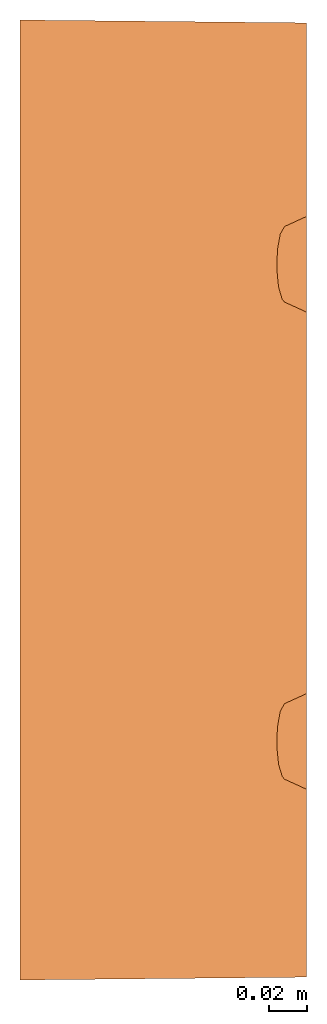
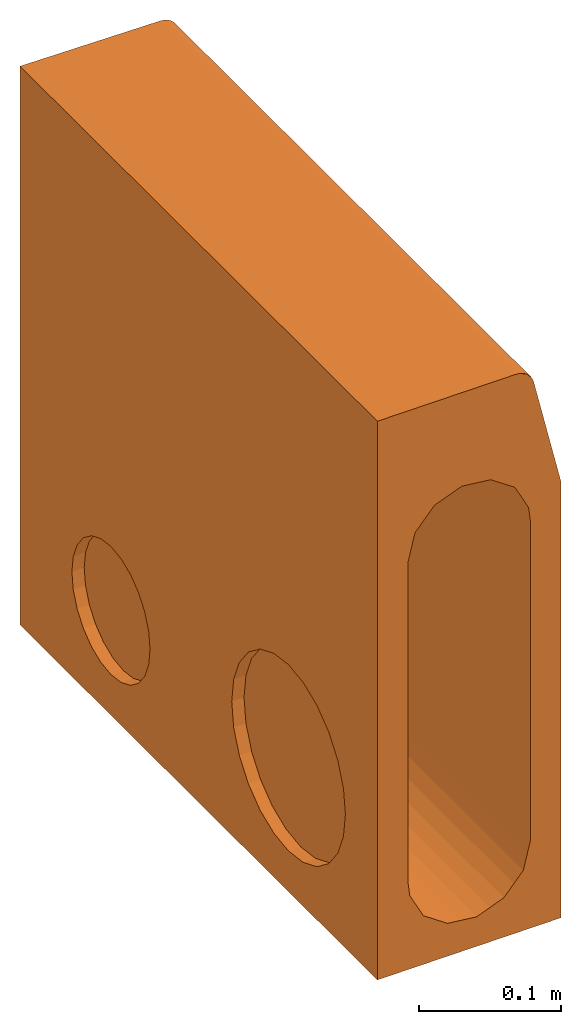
# One storey: 1 proxy.
"""IFC2X3 building model written with IfcOpenShell, lengths in millimetres."""

from ifc_helpers import new_model, entity, si_unit, converted_unit, direction, frame, origin, place, context, subcontext, project, spatial, face_set, surface_model, source, transform, mapped, material, element, save


model = new_model("IFC2X3")

# Units and contexts
model_context = context("Model", 3, precision=1e-06, world=origin(), true_north=direction((2.0, 6.12303176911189e-17, 1.0)))
context_of_model = context(None, 3, precision=1e-06, world=origin(), true_north=direction((2.0, 6.12303176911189e-17, 1.0)))
body_context = subcontext(model_context, "Body", "Model", "MODEL_VIEW")
ifc_project = project(units=[si_unit("LENGTHUNIT", "METRE", prefix="MILLI"), si_unit("AREAUNIT", "SQUARE_METRE", prefix="MILLI"), si_unit("VOLUMEUNIT", "CUBIC_METRE", prefix="MILLI"), converted_unit("PLANEANGLEUNIT", "DEGREE", entity("IfcRatioMeasure", 0.0174532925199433), si_unit("PLANEANGLEUNIT", "RADIAN"), dimensions=[0, 0, 0, 0, 0, 0, 0]), si_unit("TIMEUNIT", "SECOND")], contexts=[model_context, context_of_model])

# Site, building, storey
site_placement = place(None, origin())
site = spatial("IfcSite", under=ifc_project, at=site_placement, Name="Default", CompositionType="ELEMENT")
building_placement = place(site_placement, origin())
building = spatial("IfcBuilding", under=site, at=building_placement, CompositionType="ELEMENT")
storey_placement = place(building_placement, frame((0.0, 0.0, -300.0)))
storey = spatial("IfcBuildingStorey", under=building, at=storey_placement, Name="T.O. Fnd. Wall", CompositionType="ELEMENT", Elevation=-300.0)

# Proxy
ifc_material = material(Name="ACO Polymer Concrete.")
shared_shape = source(origin(), body_context, "Body", "SurfaceModel", [
    surface_model("IfcFaceBasedSurfaceModel", [(-76.0, 0.0, 125.0), (-76.0, 503.0, 125.0), (-76.0, 503.0, -355.0), (-76.0, 0.0, -355.0), (-76.0, 125.024425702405, -160.0), (-76.0, 145.729949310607, -162.725933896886), (-76.0, 165.024425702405, -170.717967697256), (-76.0, 181.592968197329, -183.431457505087), (-76.0, 194.306458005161, -200.0), (-76.0, 202.298491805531, -219.294476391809), (-76.0, 205.024425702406, -240.0), (-76.0, 202.298491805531, -260.705523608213), (-76.0, 194.306458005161, -280.0), (-76.0, 181.59296819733, -296.568542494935), (-76.0, 165.024425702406, -309.282032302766), (-76.0, 145.729949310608, -317.274066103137), (-76.0, 125.024425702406, -320.0), (-76.0, 104.318902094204, -317.274066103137), (-76.0, 85.0244257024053, -309.282032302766), (-76.0, 68.4558832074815, -296.568542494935), (-76.0, 55.7423933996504, -280.0), (-76.0, 47.7503595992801, -260.705523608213), (-76.0, 45.0244257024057, -240.0), (-76.0, 47.7503595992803, -219.294476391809), (-76.0, 55.7423933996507, -200.0), (-76.0, 68.4558832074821, -183.431457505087), (-76.0, 85.0244257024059, -170.717967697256), (-76.0, 104.318902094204, -162.725933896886), (-76.0, 374.975574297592, -210.0), (-76.0, 389.210621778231, -211.874079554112), (-76.0, 402.475574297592, -217.368602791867), (-76.0, 413.866447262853, -226.109127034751), (-76.0, 422.606971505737, -237.500000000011), (-76.0, 428.101494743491, -250.764952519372), (-76.0, 429.975574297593, -265.0), (-76.0, 428.101494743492, -279.23504748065), (-76.0, 422.606971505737, -292.500000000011), (-76.0, 413.866447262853, -303.890872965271), (-76.0, 402.475574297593, -312.631397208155), (-76.0, 389.210621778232, -318.12592044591), (-76.0, 374.975574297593, -320.0), (-76.0, 360.740526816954, -318.12592044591), (-76.0, 347.475574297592, -312.631397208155), (-76.0, 336.084701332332, -303.890872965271), (-76.0, 327.344177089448, -292.500000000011), (-76.0, 321.849653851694, -279.23504748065), (-76.0, 319.975574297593, -265.0), (-76.0, 321.849653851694, -250.764952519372), (-76.0, 327.344177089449, -237.500000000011), (-76.0, 336.084701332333, -226.109127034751), (-76.0, 347.475574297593, -217.368602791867), (-76.0, 360.740526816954, -211.874079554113), (74.0, 501.5, -355.0), (74.0, 1.50000000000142, -355.0), (74.0, 350.0, 20.0), (74.0, 150.0, 20.0), (74.0, 149.148145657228, 13.5295238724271), (74.0, 146.650635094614, 7.49999999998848), (74.0, 142.677669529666, 2.32233047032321), (74.0, 137.500000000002, -1.65063509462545), (74.0, 131.470476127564, -4.14814565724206), (74.0, 125.0, -5.0), (74.0, 118.529523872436, -4.14814565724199), (74.0, 112.499999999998, -1.65063509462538), (74.0, 107.322330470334, 2.32233047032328), (74.0, 103.349364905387, 7.49999999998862), (74.0, 100.851854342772, 13.5295238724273), (74.0, 100.0, 20.0), (74.0, 1.50000000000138, 20.0), (74.0, 501.5, 20.0), (74.0, 400.0, 20.0), (74.0, 399.148145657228, 13.5295238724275), (74.0, 396.650635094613, 7.49999999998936), (74.0, 392.677669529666, 2.3223304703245), (74.0, 387.500000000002, -1.65063509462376), (74.0, 381.470476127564, -4.14814565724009), (74.0, 375.0, -5.0), (74.0, 368.529523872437, -4.14814565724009), (74.0, 362.499999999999, -1.65063509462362), (74.0, 357.322330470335, 2.32233047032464), (74.0, 353.349364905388, 7.4999999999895), (74.0, 350.851854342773, 13.5295238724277), (74.0, 125.024425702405, -160.0), (74.0, 104.318902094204, -162.725933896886), (74.0, 85.0244257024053, -170.717967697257), (74.0, 68.4558832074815, -183.431457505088), (74.0, 55.7423933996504, -200.0), (74.0, 47.7503595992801, -219.29447639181), (74.0, 45.0244257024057, -240.0), (74.0, 47.7503595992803, -260.705523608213), (74.0, 55.7423933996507, -280.0), (74.0, 68.4558832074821, -296.568542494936), (74.0, 85.0244257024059, -309.282032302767), (74.0, 104.318902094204, -317.274066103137), (74.0, 125.024425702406, -320.0), (74.0, 145.729949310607, -317.274066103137), (74.0, 165.024425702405, -309.282032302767), (74.0, 181.592968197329, -296.568542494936), (74.0, 194.306458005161, -280.0), (74.0, 202.298491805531, -260.705523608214), (74.0, 205.024425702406, -240.0), (74.0, 202.298491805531, -219.29447639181), (74.0, 194.306458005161, -200.0), (74.0, 181.59296819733, -183.431457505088), (74.0, 165.024425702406, -170.717967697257), (74.0, 145.729949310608, -162.725933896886), (74.0, 374.975574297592, -210.0), (74.0, 360.740526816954, -211.874079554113), (74.0, 347.475574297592, -217.368602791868), (74.0, 336.084701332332, -226.109127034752), (74.0, 327.344177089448, -237.500000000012), (74.0, 321.849653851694, -250.764952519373), (74.0, 319.975574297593, -265.0), (74.0, 321.849653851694, -279.23504748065), (74.0, 327.344177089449, -292.500000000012), (74.0, 336.084701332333, -303.890872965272), (74.0, 347.475574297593, -312.631397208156), (74.0, 360.740526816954, -318.12592044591), (74.0, 374.975574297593, -320.0), (74.0, 389.210621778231, -318.12592044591), (74.0, 402.475574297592, -312.631397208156), (74.0, 413.866447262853, -303.890872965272), (74.0, 422.606971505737, -292.500000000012), (74.0, 428.101494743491, -279.23504748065), (74.0, 429.975574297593, -265.0), (74.0, 428.101494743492, -250.764952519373), (74.0, 422.606971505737, -237.500000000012), (74.0, 413.866447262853, -226.109127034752), (74.0, 402.475574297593, -217.368602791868), (74.0, 389.210621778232, -211.874079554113), (62.5348783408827, 355.250180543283, 68.1535109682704), (61.358168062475, 356.711759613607, 73.0956941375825), (59.4583730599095, 363.100431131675, 81.0748331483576), (58.5582966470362, 372.597323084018, 84.8551540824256), (58.893042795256, 382.721804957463, 83.4492202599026), (60.3751743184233, 390.829316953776, 77.2242678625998), (62.6175518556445, 394.802140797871, 67.8062822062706), (51.7442124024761, 501.722557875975, 113.474307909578), (51.7442124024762, 1.2774421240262, 113.474307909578), (62.6175518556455, 105.197859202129, 67.8062822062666), (61.4349132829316, 106.572444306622, 72.7733642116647), (59.508705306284, 112.820043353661, 80.863437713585), (58.5690689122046, 122.249101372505, 84.8099105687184), (58.8614413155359, 132.3967063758, 83.5819464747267), (60.3094535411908, 140.612258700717, 77.5002951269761), (62.5348783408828, 144.749819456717, 68.1535109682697), (37.1521191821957, 1.13152119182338, 125.0), (37.1521191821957, 501.868478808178, 125.0), (-49.5470892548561, 502.735483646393, 6.96578348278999), (-50.9999983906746, 502.750017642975, -5.00000026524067), (-50.9999983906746, 0.249999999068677, -5.00000026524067), (-49.5470892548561, 0.264529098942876, 6.96578348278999), (-45.2727998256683, 502.69271736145, 18.2361586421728), (-45.2727998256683, 0.307272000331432, 18.2361586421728), (27.4032374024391, 501.965981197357, 36.1491924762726), (24.4317845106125, 398.037550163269, 38.0490924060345), (29.4817351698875, 398.465467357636, 34.1136017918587), (-38.4255388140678, 502.624262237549, 28.1561324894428), (-38.4255388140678, 0.375744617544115, 28.1561324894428), (-18.7302441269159, 502.427290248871, 41.7508127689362), (-29.4032379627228, 502.534042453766, 36.1491924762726), (-29.4032379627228, 0.465967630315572, 36.1491924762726), (-18.7302441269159, 0.572697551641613, 41.7508127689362), (0.0, 102.717104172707, 44.9900000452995), (-7.02683421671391, 0.689731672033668, 44.6354431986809), (-0.99999999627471, 0.749999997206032, 44.6354431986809), (0.0, 352.72465467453, 44.9900000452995), (0.0, 147.275340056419, 44.9900000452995), (5.02683422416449, 0.810268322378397, 44.6354431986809), (2.11451071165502, 102.68273127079, 44.6738810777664), (4.22902142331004, 102.648358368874, 44.3577621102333), (-7.02683421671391, 502.310255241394, 44.6354431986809), (44.8762760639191, 100.52910182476, 14.883846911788), (43.2727992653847, 1.19272802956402, 18.2361586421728), (45.4099462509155, 1.21409939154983, 12.6009704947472), (22.0667399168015, 502.019320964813, 38.9500026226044), (10.8785397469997, 0.868785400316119, 43.1931257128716), (16.7302447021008, 0.927302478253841, 41.7508127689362), (12.6639617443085, 102.511248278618, 43.0967380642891), (34.5316858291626, 101.106637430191, 30.1781089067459), (29.4817351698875, 101.534536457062, 34.1136017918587), (31.9143878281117, 1.07914385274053, 32.1526636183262), (48.9314427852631, 113.863562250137, -2.38257565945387), (48.9999978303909, 63.2748032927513, -5.00000026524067), (48.9956012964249, 119.279556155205, -4.33673224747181), (22.0667399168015, 0.980667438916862, 38.9500026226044), (27.4032374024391, 1.03403239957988, 36.1491924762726), (24.4317845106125, 101.962435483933, 38.0490924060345), (18.5478731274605, 102.236846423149, 40.5729140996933), (3.16599043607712, 147.326944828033, 44.51668227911), (6.33198087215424, 147.378549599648, 44.0433690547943), (6.33198087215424, 352.621463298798, 44.0433690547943), (3.16599043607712, 352.673058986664, 44.51668227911), (36.4255382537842, 1.12425537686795, 28.1561324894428), (38.4164777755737, 100.553319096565, 25.0890549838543), (12.6639617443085, 147.481759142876, 43.0967380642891), (18.5478731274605, 147.756933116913, 40.5729140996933), (18.5478731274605, 352.243070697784, 40.5729140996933), (12.6639617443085, 352.518235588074, 43.0967380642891), (39.8491710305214, 1.1584916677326, 23.1961449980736), (0.0, 397.282908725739, 44.9900000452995), (-0.99999999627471, 502.250011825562, 44.6354431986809), (42.3012697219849, 400.000003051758, 20.0000010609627), (43.2727992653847, 501.807269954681, 18.2361586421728), (39.8491710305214, 501.841497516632, 23.1961449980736), (2.11451071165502, 397.317281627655, 44.6738810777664), (48.9314427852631, 386.136423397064, -2.38257565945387), (48.2735432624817, 501.757273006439, 0.982891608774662), (48.6677007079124, 390.957059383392, 0.75494049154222), (46.7841310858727, 397.78861913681, 9.71994177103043), (45.4099462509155, 501.785904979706, 12.6009704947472), (44.8762760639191, 399.470892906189, 14.883846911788), (8.45804284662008, 397.420400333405, 43.7255241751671), (10.5610025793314, 397.454555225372, 43.4111311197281), (10.8785397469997, 502.131232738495, 43.1931257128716), (34.5316858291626, 351.109709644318, 30.1781089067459), (29.4817351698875, 351.538789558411, 34.1136017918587), (29.4817351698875, 148.461196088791, 34.1136017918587), (34.5316858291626, 148.890276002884, 30.1781089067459), (24.4317845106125, 148.03210709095, 38.0490924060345), (24.4317845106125, 351.967905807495, 38.0490924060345), (38.4164777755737, 149.445138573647, 25.0890549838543), (38.4164777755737, 350.554874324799, 25.0890549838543), (9.49797130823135, 352.56983127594, 43.5700512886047), (9.49797130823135, 147.430154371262, 43.5700512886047), (42.3012697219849, 100.000000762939, 20.0000010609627), (5.02683422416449, 502.189732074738, 44.6354431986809), (31.9143878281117, 501.92085313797, 32.1526636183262), (34.5316858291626, 398.893348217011, 30.1781089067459), (16.7302447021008, 502.072697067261, 41.7508127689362), (18.5478731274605, 397.7631483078, 40.5729140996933), (48.0129623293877, 105.086145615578, 4.8858164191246), (48.2735432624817, 1.24273548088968, 0.982891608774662), (48.6677007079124, 109.042944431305, 0.75494049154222), (36.4255382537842, 501.875761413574, 28.1561324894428), (46.7841310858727, 102.211393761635, 9.71994177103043), (47.5470886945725, 1.23547089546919, 6.96578348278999), (44.8762760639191, 350.529112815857, 14.883846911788), (42.3012697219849, 350.000002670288, 20.0000010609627), (42.3012697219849, 150.000001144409, 20.0000010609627), (44.8762760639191, 149.470900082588, 14.883846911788), (46.7841310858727, 352.211386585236, 9.71994177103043), (46.7841310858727, 147.788599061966, 9.71994177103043), (48.9999978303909, 125.000000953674, -5.00000026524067), (48.9999978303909, 1.25000006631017, -5.00000026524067), (48.6677007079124, 359.042946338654, 0.75494049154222), (48.0129623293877, 355.086138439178, 4.8858164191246), (48.0129623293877, 144.913847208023, 4.8858164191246), (48.6677007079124, 140.957057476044, 0.75494049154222), (48.9999978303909, 251.549598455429, -5.00000026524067), (48.9314427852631, 136.136439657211, -2.38257565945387), (48.9999978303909, 186.725194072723, -5.00000026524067), (48.9956012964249, 130.720445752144, -4.33673224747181), (12.6639617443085, 397.488746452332, 43.0967380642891), (47.5470886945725, 501.76454000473, 6.96578348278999), (48.0129623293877, 394.913867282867, 4.8858164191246), (38.4164777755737, 399.44669380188, 25.0890549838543), (8.45804284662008, 102.579621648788, 43.7255241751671), (48.9999978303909, 313.274809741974, -5.00000026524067), (48.9314427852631, 363.86354598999, -2.38257565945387), (48.9999978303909, 375.000002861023, -5.00000026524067), (48.9956012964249, 369.279567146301, -4.33673224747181), (48.9956012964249, 380.720438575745, -4.33673224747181), (48.9999978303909, 436.725195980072, -5.00000026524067), (48.9999978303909, 501.750006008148, -5.00000026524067), (10.5610025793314, 102.545430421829, 43.4111311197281), (4.22902142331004, 397.351654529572, 44.3577621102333), (6.3435319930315, 397.386027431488, 44.0416431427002), (6.3435319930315, 102.613985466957, 44.0416431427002), (49.0, 1.25000000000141, -280.0), (49.0, 501.75, -280.0), (43.2727992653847, 501.807269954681, -303.236160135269), (47.5470886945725, 501.76454000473, -291.965790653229), (47.5470886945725, 1.23547089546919, -291.965790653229), (43.2727992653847, 1.19272802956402, -303.236160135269), (5.02683422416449, 502.189732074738, -329.635439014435), (16.7302447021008, 502.072697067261, -326.750804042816), (16.7302447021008, 0.927302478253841, -326.750804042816), (5.02683422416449, 0.810268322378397, -329.635439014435), (27.4032374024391, 501.965981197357, -321.149183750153), (36.4255382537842, 501.875761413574, -313.156139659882), (36.4255382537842, 1.12425537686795, -313.156139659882), (27.4032374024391, 1.03403239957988, -321.149183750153), (-7.02683421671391, 502.310255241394, -329.635439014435), (-7.02683421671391, 0.689731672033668, -329.635439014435), (-18.7302441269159, 502.427290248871, -326.750804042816), (-18.7302441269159, 0.572697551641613, -326.750804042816), (-29.4032379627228, 502.534042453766, -321.149183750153), (-29.4032379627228, 0.465967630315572, -321.149183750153), (-49.5470892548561, 502.735483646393, -291.965790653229), (-45.2727998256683, 502.69271736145, -303.236160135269), (-45.2727998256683, 0.307272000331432, -303.236160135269), (-49.5470892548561, 0.264529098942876, -291.965790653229), (-38.4255388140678, 502.624262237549, -313.156139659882), (-38.4255388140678, 0.375744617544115, -313.156139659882), (-50.9999983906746, 502.750017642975, -280.00000576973), (-50.9999983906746, 0.249999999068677, -280.00000576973), (48.8211070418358, 1.24821113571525, 119.4252140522), (48.8211070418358, 501.75178642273, 119.4252140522), (46.44957665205, 501.77551317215, 121.771037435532), (46.44957665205, 1.22449574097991, 121.771037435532), (50.615565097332, 1.26615565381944, 116.613285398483), (50.615565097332, 501.733836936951, 116.613285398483), (40.4671565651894, 1.16467152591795, 124.629102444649), (40.4671565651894, 501.835320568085, 124.629102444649), (43.6182496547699, 1.1961825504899, 123.534737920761), (43.6182496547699, 501.803818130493, 123.534737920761), (0.0, 109.170680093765, 77.2242652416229), (0.0, 106.572446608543, 72.7733650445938), (60.3751755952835, 109.170680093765, 77.2242652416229), (0.0, 105.197857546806, 67.806280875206), (0.0, 122.249096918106, 84.8099123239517), (0.0, 117.278197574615, 83.4492213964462), (58.8930440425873, 117.278197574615, 83.4492213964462), (0.0, 112.820039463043, 80.8634417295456), (0.0, 127.402679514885, 84.8551584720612), (58.5582988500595, 127.402679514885, 84.8551584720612), (0.0, 132.396706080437, 83.5819440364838), (59.458371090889, 136.899565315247, 81.0748296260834), (0.0, 136.899565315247, 81.0748296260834), (0.0, 144.749821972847, 68.1535116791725), (61.3581688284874, 143.288237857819, 73.0956927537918), (0.0, 143.288237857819, 73.0956927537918), (0.0, 140.612256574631, 77.5002930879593), (0.0, 359.387729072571, 77.5002930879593), (0.0, 356.711765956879, 73.0956927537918), (60.3094546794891, 359.387729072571, 77.5002930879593), (0.0, 355.250190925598, 68.1535116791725), (0.0, 372.597315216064, 84.8551584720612), (0.0, 367.603288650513, 83.5819440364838), (58.8614416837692, 367.603288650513, 83.5819440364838), (0.0, 363.100438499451, 81.0748296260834), (58.569067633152, 377.750888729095, 84.8099123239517), (0.0, 377.750888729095, 84.8099123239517), (0.0, 382.721806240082, 83.4492213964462), (59.5087041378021, 387.179964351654, 80.8634417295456), (0.0, 387.179964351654, 80.8634417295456), (0.0, 393.427548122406, 72.7733650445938), (61.4349128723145, 393.427548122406, 72.7733650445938), (0.0, 394.802137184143, 67.806280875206), (0.0, 390.829305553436, 77.2242652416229), (-66.0, 125.024425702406, -320.0), (-66.0, 104.318902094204, -317.274066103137), (-66.0, 85.0244257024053, -309.282032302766), (-66.0, 68.4558832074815, -296.568542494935), (-66.0, 55.7423933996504, -280.0), (-66.0, 47.7503595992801, -260.705523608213), (-66.0, 45.0244257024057, -240.0), (-66.0, 47.7503595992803, -219.294476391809), (-66.0, 55.7423933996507, -200.0), (-66.0, 68.4558832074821, -183.431457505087), (-66.0, 85.0244257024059, -170.717967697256), (-66.0, 104.318902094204, -162.725933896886), (-66.0, 125.024425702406, -160.0), (-66.0, 145.729949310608, -162.725933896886), (-66.0, 165.024425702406, -170.717967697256), (-66.0, 181.59296819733, -183.431457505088), (-66.0, 194.306458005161, -200.0), (-66.0, 202.298491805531, -219.29447639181), (-66.0, 205.024425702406, -240.0), (-66.0, 202.298491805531, -260.705523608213), (-66.0, 194.306458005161, -280.0), (-66.0, 181.592968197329, -296.568542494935), (-66.0, 165.024425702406, -309.282032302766), (-66.0, 145.729949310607, -317.274066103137), (-66.0000003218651, 374.975585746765, -320.000016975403), (-66.0000003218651, 389.210618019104, -318.125930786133), (-66.0000003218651, 402.475578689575, -312.631389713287), (-66.0000003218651, 413.866453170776, -303.890880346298), (-66.0000003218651, 422.606980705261, -292.500005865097), (-66.0000003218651, 428.101485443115, -279.235045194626), (-66.0000003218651, 429.975571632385, -264.999994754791), (-66.0000003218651, 428.101485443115, -250.764944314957), (-66.0000003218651, 422.606980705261, -237.500001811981), (-66.0000003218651, 413.866453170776, -226.10912733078), (-66.0000003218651, 402.475578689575, -217.368599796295), (-66.0000003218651, 389.210618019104, -211.874076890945), (-66.0000003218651, 374.975585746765, -210.000008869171), (-66.0000003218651, 360.740517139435, -211.874076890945), (-66.0000003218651, 347.475556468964, -217.368599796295), (-66.0000003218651, 327.344190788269, -237.500001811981), (-66.0000003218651, 336.084718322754, -226.10912733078), (-66.0000003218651, 321.849649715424, -250.764944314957), (-66.0000003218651, 319.975563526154, -264.999994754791), (-66.0000003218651, 321.849649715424, -279.235045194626), (-66.0000003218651, 327.344190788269, -292.500005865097), (-66.0000003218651, 336.084718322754, -303.890880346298), (-66.0000003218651, 347.475556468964, -312.631389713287), (-66.0000003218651, 360.740517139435, -318.125930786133), (64.0, 125.024425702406, -160.0), (64.0, 104.318902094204, -162.725933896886), (64.0, 85.0244257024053, -170.717967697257), (64.0, 68.4558832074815, -183.431457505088), (64.0, 55.7423933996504, -200.0), (64.0, 47.7503595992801, -219.29447639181), (64.0, 45.0244257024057, -240.0), (64.0, 47.7503595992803, -260.705523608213), (64.0, 55.7423933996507, -280.0), (64.0, 68.4558832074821, -296.568542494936), (64.0, 85.0244257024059, -309.282032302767), (64.0, 104.318902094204, -317.274066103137), (64.0, 125.024425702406, -320.0), (64.0, 145.729949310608, -317.274066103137), (64.0, 165.024425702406, -309.282032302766), (64.0, 181.59296819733, -296.568542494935), (64.0, 194.306458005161, -280.0), (64.0, 202.298491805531, -260.705523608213), (64.0, 205.024425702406, -240.0), (64.0, 202.298491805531, -219.29447639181), (64.0, 194.306458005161, -200.0), (64.0, 181.592968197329, -183.431457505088), (64.0, 165.024425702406, -170.717967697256), (64.0, 145.729949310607, -162.725933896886), (63.9999997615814, 374.975585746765, -320.000016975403), (63.9999997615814, 360.740517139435, -318.125930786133), (63.9999997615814, 347.475556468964, -312.631389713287), (63.9999997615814, 336.084718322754, -303.890880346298), (63.9999997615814, 327.344190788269, -292.500005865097), (63.9999997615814, 321.849649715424, -279.235045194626), (63.9999997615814, 319.975563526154, -264.999994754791), (63.9999997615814, 321.849649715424, -250.764944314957), (63.9999997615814, 327.344190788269, -237.500001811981), (63.9999997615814, 347.475556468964, -217.368599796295), (63.9999997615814, 336.084718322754, -226.10912733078), (63.9999997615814, 360.740517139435, -211.874076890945), (63.9999997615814, 374.975585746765, -210.000008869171), (63.9999997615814, 389.210618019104, -211.874076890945), (63.9999997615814, 402.475578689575, -217.368599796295), (63.9999997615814, 413.866453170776, -226.10912733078), (63.9999997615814, 422.606980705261, -237.500001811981), (63.9999997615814, 428.101485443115, -250.764944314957), (63.9999997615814, 429.975571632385, -264.999994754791), (63.9999997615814, 428.101485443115, -279.235045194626), (63.9999997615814, 422.606980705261, -292.500005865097), (63.9999997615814, 413.866453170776, -303.890880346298), (63.9999997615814, 402.475578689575, -312.631389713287), (63.9999997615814, 389.210618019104, -318.125930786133)], [face_set([[[0, 1, 2, 3], [4, 5, 6, 7, 8, 9, 10, 11, 12, 13, 14, 15, 16, 17, 18, 19, 20, 21, 22, 23, 24, 25, 26, 27], [28, 29, 30, 31, 32, 33, 34, 35, 36, 37, 38, 39, 40, 41, 42, 43, 44, 45, 46, 47, 48, 49, 50, 51]], [[3, 2, 52, 53]], [[54, 55, 56, 57, 58, 59, 60, 61, 62, 63, 64, 65, 66, 67, 68, 53, 52, 69, 70, 71, 72, 73, 74, 75, 76, 77, 78, 79, 80, 81], [82, 83, 84, 85, 86, 87, 88, 89, 90, 91, 92, 93, 94, 95, 96, 97, 98, 99, 100, 101, 102, 103, 104, 105], [106, 107, 108, 109, 110, 111, 112, 113, 114, 115, 116, 117, 118, 119, 120, 121, 122, 123, 124, 125, 126, 127, 128, 129]], [[55, 54, 130, 131, 132, 133, 134, 135, 136, 70, 69, 137, 138, 68, 67, 139, 140, 141, 142, 143, 144, 145]], [[1, 0, 146, 147]], [[148, 149, 150, 151]], [[152, 148, 151, 153]], [[154, 155, 156]], [[157, 152, 153, 158]], [[159, 160, 161, 162]], [[163, 164, 165]], [[166, 164, 163, 167]], [[165, 168, 169]], [[168, 170, 169]], [[171, 159, 162, 164]], [[172, 173, 174]], [[160, 157, 158, 161]], [[155, 154, 175]], [[176, 177, 178]], [[179, 180, 181]], [[182, 183, 184]], [[185, 186, 187]], [[188, 178, 177]], [[187, 186, 180]], [[189, 190, 191, 192]], [[179, 193, 194]], [[180, 186, 181]], [[195, 196, 197, 198]], [[194, 193, 199]], [[164, 166, 200, 171]], [[171, 200, 201]], [[202, 203, 204]], [[205, 201, 200]], [[206, 207, 208]], [[209, 210, 211]], [[188, 185, 187]], [[212, 213, 214]], [[215, 216, 217, 218]], [[196, 219, 220, 197]], [[218, 221, 222, 215]], [[198, 223, 224, 195]], [[225, 199, 173]], [[212, 214, 226]], [[227, 156, 228]], [[156, 227, 154]], [[175, 229, 230]], [[230, 155, 175]], [[231, 232, 233]], [[216, 220, 219, 217]], [[179, 181, 193]], [[228, 234, 227]], [[225, 173, 172]], [[174, 235, 172]], [[235, 174, 236]], [[237, 238, 239, 240]], [[231, 235, 236]], [[241, 237, 240, 242]], [[232, 231, 236]], [[221, 239, 238, 222]], [[233, 232, 182]], [[184, 183, 243]], [[183, 182, 244]], [[245, 246, 247, 248]], [[249, 250, 251]], [[251, 250, 252]], [[250, 249, 248]], [[253, 229, 214]], [[232, 244, 182]], [[246, 241, 242, 247]], [[254, 209, 255]], [[256, 234, 228]], [[202, 204, 256]], [[203, 211, 210]], [[211, 203, 202]], [[210, 209, 254]], [[176, 257, 168]], [[258, 259, 249]], [[249, 259, 245]], [[260, 261, 258]], [[249, 245, 248]], [[207, 254, 255]], [[262, 263, 206]], [[206, 263, 264]], [[264, 207, 206]], [[207, 255, 208]], [[265, 176, 178]], [[185, 188, 177]], [[199, 225, 194]], [[234, 256, 204]], [[262, 260, 263]], [[229, 253, 230]], [[226, 266, 267]], [[259, 258, 261]], [[252, 243, 251]], [[168, 257, 268]], [[201, 205, 226]], [[167, 189, 192, 166]], [[223, 191, 190, 224]], [[212, 226, 267]], [[257, 176, 265]], [[253, 214, 213]], [[165, 169, 163]], [[266, 226, 205]], [[170, 168, 268]], [[243, 244, 269, 270, 264, 260]], [[271, 272, 273, 274]], [[272, 270, 269, 273]], [[275, 276, 277, 278]], [[279, 280, 281, 282]], [[276, 279, 282, 277]], [[280, 271, 274, 281]], [[283, 275, 278, 284]], [[285, 283, 284, 286]], [[287, 285, 286, 288]], [[289, 290, 291, 292]], [[290, 293, 294, 291]], [[293, 287, 288, 294]], [[295, 289, 292, 296]], [[149, 295, 296, 150]], [[297, 298, 299, 300]], [[301, 302, 298, 297]], [[138, 137, 302, 301]], [[303, 304, 147, 146]], [[305, 306, 304, 303]], [[306, 305, 300, 299]], [[307, 308, 140, 309]], [[308, 310, 139, 140]], [[311, 312, 313, 142]], [[312, 314, 141, 313]], [[314, 307, 309, 141]], [[315, 311, 142, 316]], [[317, 143, 318, 319]], [[315, 316, 143, 317]], [[320, 145, 321, 322]], [[323, 144, 321, 322]], [[319, 318, 144, 323]], [[55, 240, 56]], [[56, 242, 57]], [[59, 58, 248]], [[252, 61, 60]], [[247, 58, 57]], [[60, 59, 250]], [[55, 239, 240]], [[56, 240, 242]], [[60, 250, 252]], [[58, 247, 248]], [[59, 248, 250]], [[247, 57, 242]], [[252, 243, 61]], [[184, 61, 243]], [[62, 61, 184]], [[62, 182, 63]], [[65, 66, 235]], [[231, 64, 65]], [[64, 63, 233]], [[172, 66, 67]], [[62, 184, 182]], [[63, 182, 233]], [[235, 231, 65]], [[225, 172, 67]], [[235, 66, 172]], [[233, 64, 231]], [[71, 211, 70]], [[72, 209, 71]], [[74, 73, 208]], [[262, 76, 75]], [[72, 73, 255]], [[75, 74, 206]], [[211, 202, 70]], [[209, 211, 71]], [[75, 206, 262]], [[208, 255, 73]], [[74, 208, 206]], [[209, 72, 255]], [[262, 260, 76]], [[261, 76, 260]], [[77, 76, 261]], [[77, 259, 78]], [[241, 81, 80]], [[80, 79, 246]], [[79, 78, 245]], [[54, 81, 237]], [[77, 261, 259]], [[78, 259, 245]], [[80, 246, 241]], [[54, 237, 238]], [[237, 81, 241]], [[246, 79, 245]], [[324, 325, 131, 326]], [[131, 130, 327, 325]], [[328, 329, 330, 133]], [[329, 331, 132, 330]], [[331, 324, 326, 132]], [[332, 333, 328, 133]], [[334, 134, 335, 336]], [[333, 332, 134, 334]], [[337, 338, 136, 339]], [[340, 135, 338, 337]], [[336, 335, 135, 340]], [[320, 145, 55, 239, 218, 195, 167]], [[163, 310, 139, 67, 225, 179, 178]], [[339, 136, 70, 202, 228, 253, 200]], [[166, 327, 130, 54, 238, 215, 198]], [[341, 342, 343, 344, 345, 346, 347, 348, 349, 350, 351, 352, 353, 354, 355, 356, 357, 358, 359, 360, 361, 362, 363, 364]], [[341, 16, 15, 364]], [[364, 15, 14, 363]], [[362, 13, 12, 361]], [[363, 14, 13, 362]], [[361, 12, 11, 360]], [[11, 360, 359, 10]], [[358, 9, 10, 359]], [[357, 8, 9, 358]], [[355, 6, 7, 356]], [[356, 7, 8, 357]], [[354, 5, 6, 355]], [[354, 353, 4, 5]], [[352, 27, 4, 353]], [[352, 27, 26, 351]], [[350, 25, 24, 349]], [[351, 26, 25, 350]], [[349, 24, 23, 348]], [[22, 347, 348, 23]], [[347, 22, 21, 346]], [[346, 21, 20, 345]], [[344, 19, 18, 343]], [[345, 20, 19, 344]], [[343, 18, 17, 342]], [[16, 341, 342, 17]], [[365, 40, 39, 366]], [[366, 39, 38, 367]], [[368, 37, 36, 369]], [[367, 38, 37, 368]], [[369, 36, 35, 370]], [[34, 371, 370, 35]], [[371, 34, 33, 372]], [[372, 33, 32, 373]], [[374, 31, 30, 375]], [[373, 32, 31, 374]], [[376, 29, 30, 375]], [[29, 376, 377, 28]], [[378, 51, 28, 377]], [[379, 50, 51, 378]], [[380, 48, 49, 381]], [[381, 49, 50, 379]], [[382, 47, 48, 380]], [[47, 382, 383, 46]], [[384, 45, 46, 383]], [[385, 44, 45, 384]], [[386, 43, 42, 387]], [[385, 44, 43, 386]], [[387, 42, 41, 388]], [[40, 365, 388, 41]], [[389, 390, 391, 392, 393, 394, 395, 396, 397, 398, 399, 400, 401, 402, 403, 404, 405, 406, 407, 408, 409, 410, 411, 412]], [[401, 94, 93, 400]], [[400, 93, 92, 399]], [[398, 91, 90, 397]], [[399, 92, 91, 398]], [[397, 90, 89, 396]], [[88, 395, 396, 89]], [[395, 88, 87, 394]], [[394, 87, 86, 393]], [[392, 85, 84, 391]], [[393, 86, 85, 392]], [[391, 84, 83, 390]], [[83, 390, 389, 82]], [[412, 105, 82, 389]], [[411, 104, 105, 412]], [[409, 102, 103, 410]], [[410, 103, 104, 411]], [[408, 101, 102, 409]], [[101, 408, 407, 100]], [[406, 99, 100, 407]], [[406, 99, 98, 405]], [[404, 97, 96, 403]], [[405, 98, 97, 404]], [[403, 96, 95, 402]], [[95, 94, 401, 402]], [[413, 118, 117, 414]], [[414, 117, 116, 415]], [[416, 115, 114, 417]], [[415, 116, 115, 416]], [[418, 113, 114, 417]], [[113, 418, 419, 112]], [[420, 111, 112, 419]], [[421, 110, 111, 420]], [[422, 108, 109, 423]], [[423, 109, 110, 421]], [[424, 107, 108, 422]], [[107, 424, 425, 106]], [[426, 129, 106, 425]], [[427, 128, 129, 426]], [[428, 127, 126, 429]], [[427, 128, 127, 428]], [[429, 126, 125, 430]], [[124, 431, 430, 125]], [[431, 124, 123, 432]], [[432, 123, 122, 433]], [[434, 121, 120, 435]], [[433, 122, 121, 434]], [[435, 120, 119, 436]], [[118, 413, 436, 119]], [[0, 3, 53, 68, 138, 301, 300, 303, 146], [150, 153, 161, 164, 177, 193, 236, 244, 269, 274, 282, 278, 286, 294, 292, 296]], [[2, 1, 147, 304, 299, 302, 137, 69, 52], [264, 203, 154, 226, 159, 157, 148, 149, 295, 290, 287, 283, 276, 280, 272, 270]], [[320, 322, 323, 319, 317, 315, 311, 312, 314, 307, 308, 310, 163, 167]], [[339, 337, 340, 336, 334, 333, 328, 329, 331, 324, 325, 327, 166, 200]], [[425, 424, 422, 423, 421, 420, 419, 418, 417, 416, 415, 414, 413, 436, 435, 434, 433, 432, 431, 430, 429, 428, 427, 426]], [[365, 388, 387, 386, 385, 384, 383, 382, 380, 381, 379, 378, 377, 376, 375, 374, 373, 372, 371, 370, 369, 368, 367, 366]]])]),
])
proxy_placement = place(storey_placement, frame((-5682.99544306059, -10247.1166238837, 300.0)))
element("IfcBuildingElementProxy", 1, at=proxy_placement, inside=storey, material=ifc_material, Name="Civil-Drainage-Channel-ACO-KerbDrain-HB480(amar):4937 - 25-11m internal mitre:4937 - 25-11m internal mitre", ObjectType="4937 - 25-11m internal mitre", CompositionType="ELEMENT", context=body_context, shape_type="MappedRepresentation", body=[
    mapped(shared_shape, transform((0.0, 0.0, 0.0), scale=1.0)),
])

save(model, "model.ifc")
